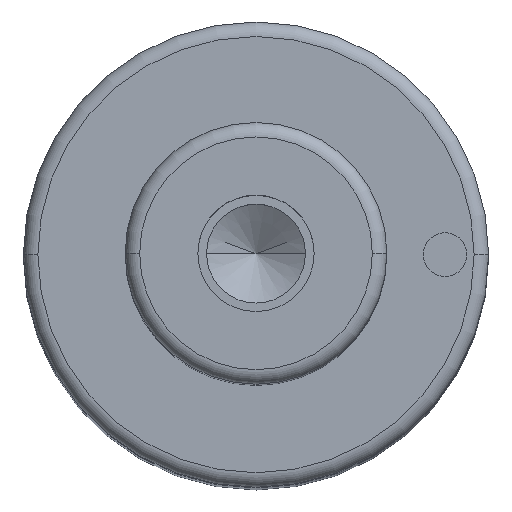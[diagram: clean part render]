
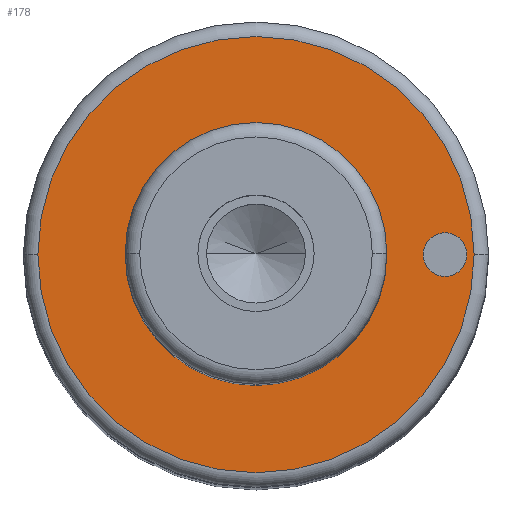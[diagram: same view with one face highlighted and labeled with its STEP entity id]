
A CAD part, top view. The second image highlights one B-rep face of the part: STEP entity #178.
In plain terms, the highlighted planar face has unit normal (0, 0, 1).
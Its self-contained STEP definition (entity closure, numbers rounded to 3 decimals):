
#105=PLANE('',#866);
#115=FACE_BOUND('',#283,.T.);
#116=FACE_BOUND('',#284,.T.);
#117=FACE_BOUND('',#285,.T.);
#178=ADVANCED_FACE('',(#115,#116,#117),#105,.T.);
#283=EDGE_LOOP('',(#473,#474));
#284=EDGE_LOOP('',(#475,#476));
#285=EDGE_LOOP('',(#477,#478));
#333=CIRCLE('',#834,9.);
#334=CIRCLE('',#836,9.);
#338=CIRCLE('',#841,15.);
#339=CIRCLE('',#843,15.);
#351=CIRCLE('',#864,1.5);
#352=CIRCLE('',#865,1.5);
#473=ORIENTED_EDGE('',*,*,#666,.F.);
#474=ORIENTED_EDGE('',*,*,#667,.F.);
#475=ORIENTED_EDGE('',*,*,#685,.F.);
#476=ORIENTED_EDGE('',*,*,#686,.F.);
#477=ORIENTED_EDGE('',*,*,#662,.T.);
#478=ORIENTED_EDGE('',*,*,#660,.T.);
#590=VERTEX_POINT('',#1233);
#591=VERTEX_POINT('',#1235);
#592=VERTEX_POINT('',#1241);
#595=VERTEX_POINT('',#1246);
#604=VERTEX_POINT('',#1285);
#605=VERTEX_POINT('',#1286);
#660=EDGE_CURVE('',#591,#590,#333,.T.);
#662=EDGE_CURVE('',#590,#591,#334,.T.);
#666=EDGE_CURVE('',#595,#592,#338,.T.);
#667=EDGE_CURVE('',#592,#595,#339,.T.);
#685=EDGE_CURVE('',#604,#605,#351,.T.);
#686=EDGE_CURVE('',#605,#604,#352,.T.);
#834=AXIS2_PLACEMENT_3D('',#1234,#985,#986);
#836=AXIS2_PLACEMENT_3D('',#1238,#990,#991);
#841=AXIS2_PLACEMENT_3D('',#1247,#1000,#1001);
#843=AXIS2_PLACEMENT_3D('',#1249,#1004,#1005);
#864=AXIS2_PLACEMENT_3D('',#1284,#1052,#1053);
#865=AXIS2_PLACEMENT_3D('',#1287,#1054,#1055);
#866=AXIS2_PLACEMENT_3D('',#1288,#1056,#1057);
#985=DIRECTION('',(0.,0.,-1.));
#986=DIRECTION('',(0.,1.,0.));
#990=DIRECTION('',(0.,0.,-1.));
#991=DIRECTION('',(0.,-1.,0.));
#1000=DIRECTION('',(0.,0.,-1.));
#1001=DIRECTION('',(0.,1.,0.));
#1004=DIRECTION('',(0.,0.,-1.));
#1005=DIRECTION('',(0.,-1.,0.));
#1052=DIRECTION('',(0.,0.,1.));
#1053=DIRECTION('',(0.,1.,0.));
#1054=DIRECTION('',(0.,0.,1.));
#1055=DIRECTION('',(0.,-1.,0.));
#1056=DIRECTION('',(0.,0.,1.));
#1057=DIRECTION('',(0.,-1.,0.));
#1233=CARTESIAN_POINT('',(-9.,0.,108.));
#1234=CARTESIAN_POINT('',(0.,0.,108.));
#1235=CARTESIAN_POINT('',(9.,0.,108.));
#1238=CARTESIAN_POINT('',(0.,0.,108.));
#1241=CARTESIAN_POINT('',(-15.,0.,108.));
#1246=CARTESIAN_POINT('',(15.,0.,108.));
#1247=CARTESIAN_POINT('',(0.,0.,108.));
#1249=CARTESIAN_POINT('',(0.,0.,108.));
#1284=CARTESIAN_POINT('',(13.,0.,108.));
#1285=CARTESIAN_POINT('',(11.5,0.,108.));
#1286=CARTESIAN_POINT('',(14.5,0.,108.));
#1287=CARTESIAN_POINT('',(13.,0.,108.));
#1288=CARTESIAN_POINT('',(0.,0.,108.));
